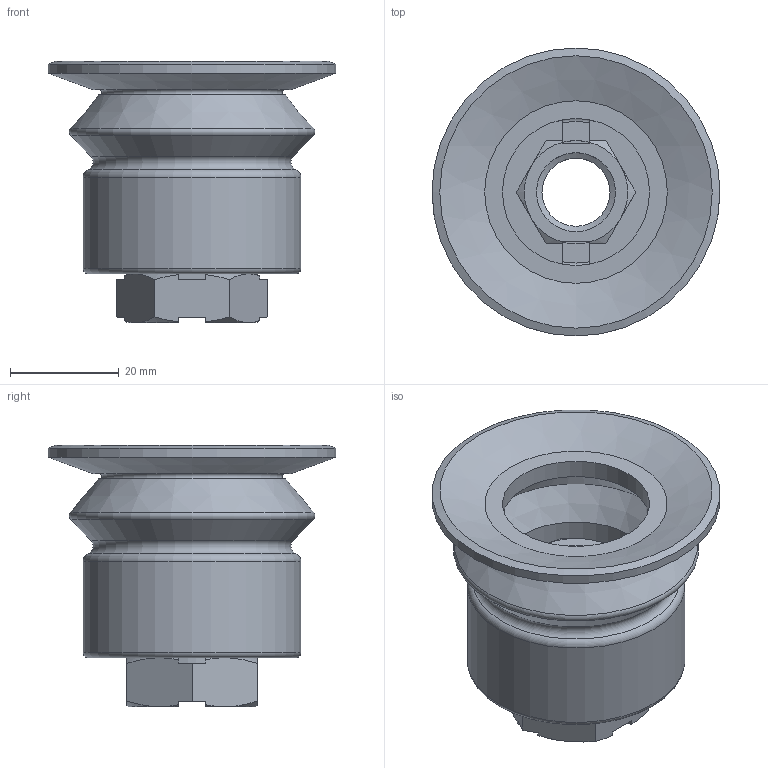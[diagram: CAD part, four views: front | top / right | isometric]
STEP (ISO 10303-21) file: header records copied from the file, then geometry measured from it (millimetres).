
FILE_DESCRIPTION(('STEP AP214'),'1');
FILE_NAME(').stp','2026-03-23T07:38:06',(' '),(' '),'Spatial InterOp 3D',' ',' ');
FILE_SCHEMA(('AUTOMOTIVE_DESIGN { 1 0 10303 214 1 1 1 1 }'));
Length unit declared in the file: millimetre
Products named in the file (5): LFK-M14-PKBG-50; PKBG-50-W; LFK-M14; NUT; FITTING
Assembly tree (4 placements, depth 3):
  LFK-M14-PKBG-50
    PKBG-50-W
    LFK-M14
      NUT
      FITTING
Bounding box: 52.86 x 52.86 x 48 mm (x, y, z)
Volume: 34827.2 mm3; surface area: 17676.6 mm2
Topology: 3 solids, 3 shells, 120 faces, 307 edges, 197 vertices
Faces by surface type: plane 58, cone 36, cylinder 20, torus 6
Full cylindrical faces by diameter (mm): 12.5 x2, 14.5 x1, 19 x1, 27 x1, 28 x1, 40 x1, 52.86 x1
Entity records: 4810 total; most frequent: CARTESIAN_POINT 862, ORIENTED_EDGE 564, DIRECTION 548, EDGE_CURVE 282, AXIS2_PLACEMENT_3D 208, VERTEX_POINT 194, EDGE_LOOP 152, STYLED_ITEM 145
